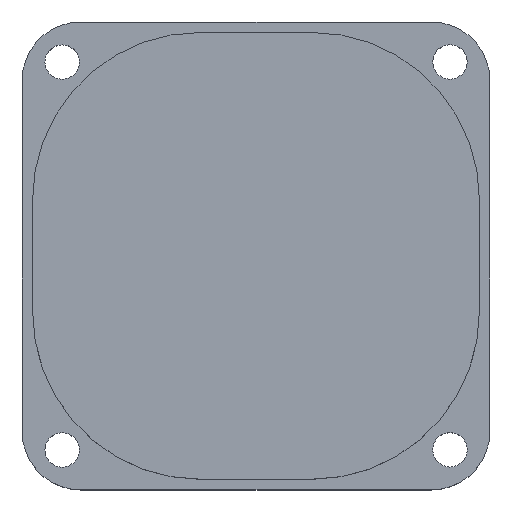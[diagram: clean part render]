
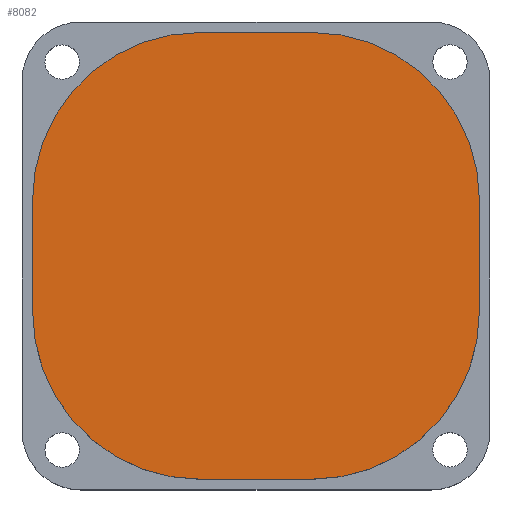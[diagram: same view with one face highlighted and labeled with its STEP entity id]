
A CAD part, top view. The second image highlights one B-rep face of the part: STEP entity #8082.
In plain terms, the highlighted planar face has unit normal (0, 0, 1).
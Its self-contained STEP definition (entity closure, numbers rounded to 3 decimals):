
#109 = DIRECTION ( 'NONE',  ( 0., 0., 1. ) ) ;
#158 = EDGE_LOOP ( 'NONE', ( #6328, #1506, #8587, #3090, #3421, #2420, #7467, #9928 ) ) ;
#259 = PLANE ( 'NONE',  #8078 ) ;
#336 = VERTEX_POINT ( 'NONE', #2108 ) ;
#345 = EDGE_CURVE ( 'NONE', #4253, #9525, #2819, .T. ) ;
#428 = DIRECTION ( 'NONE',  ( 1., 0., 0. ) ) ;
#455 = CIRCLE ( 'NONE', #7602, 18.186 ) ;
#800 = LINE ( 'NONE', #4471, #5436 ) ;
#926 = LINE ( 'NONE', #2035, #6907 ) ;
#1097 = AXIS2_PLACEMENT_3D ( 'NONE', #2015, #1155, #428 ) ;
#1155 = DIRECTION ( 'NONE',  ( 0., 0., 1. ) ) ;
#1220 = CARTESIAN_POINT ( 'NONE',  ( 22.316, 0.986, 48.057 ) ) ;
#1506 = ORIENTED_EDGE ( 'NONE', *, *, #5512, .T. ) ;
#1527 = EDGE_CURVE ( 'NONE', #4843, #336, #9398, .T. ) ;
#1579 = CIRCLE ( 'NONE', #1097, 18.186 ) ;
#1760 = CARTESIAN_POINT ( 'NONE',  ( 40.503, 31.313, 48.057 ) ) ;
#2015 = CARTESIAN_POINT ( 'NONE',  ( 10.175, 31.313, 48.057 ) ) ;
#2034 = CARTESIAN_POINT ( 'NONE',  ( -8.011, 49.5, 48.057 ) ) ;
#2035 = CARTESIAN_POINT ( 'NONE',  ( -8.011, 49.5, 48.057 ) ) ;
#2049 = DIRECTION ( 'NONE',  ( 0., 0., 1. ) ) ;
#2108 = CARTESIAN_POINT ( 'NONE',  ( 10.175, 49.5, 48.057 ) ) ;
#2420 = ORIENTED_EDGE ( 'NONE', *, *, #4279, .T. ) ;
#2819 = LINE ( 'NONE', #6938, #7473 ) ;
#2825 = AXIS2_PLACEMENT_3D ( 'NONE', #8412, #9178, #8350 ) ;
#2845 = DIRECTION ( 'NONE',  ( 0., 0., 1. ) ) ;
#2937 = DIRECTION ( 'NONE',  ( 1., 0., 0. ) ) ;
#3090 = ORIENTED_EDGE ( 'NONE', *, *, #7160, .T. ) ;
#3167 = CARTESIAN_POINT ( 'NONE',  ( 22.316, 19.172, 48.057 ) ) ;
#3421 = ORIENTED_EDGE ( 'NONE', *, *, #345, .T. ) ;
#4123 = VERTEX_POINT ( 'NONE', #10156 ) ;
#4130 = CARTESIAN_POINT ( 'NONE',  ( -8.011, 31.313, 48.057 ) ) ;
#4253 = VERTEX_POINT ( 'NONE', #6237 ) ;
#4279 = EDGE_CURVE ( 'NONE', #9525, #4843, #455, .T. ) ;
#4427 = DIRECTION ( 'NONE',  ( 1., 0., 0. ) ) ;
#4471 = CARTESIAN_POINT ( 'NONE',  ( -8.011, 0.986, 48.057 ) ) ;
#4668 = CIRCLE ( 'NONE', #9612, 18.186 ) ;
#4670 = EDGE_CURVE ( 'NONE', #4123, #5926, #800, .T. ) ;
#4843 = VERTEX_POINT ( 'NONE', #5927 ) ;
#4942 = DIRECTION ( 'NONE',  ( 0., 1., 0. ) ) ;
#5109 = EDGE_CURVE ( 'NONE', #8676, #7977, #926, .T. ) ;
#5436 = VECTOR ( 'NONE', #5991, 1000. ) ;
#5512 = EDGE_CURVE ( 'NONE', #7977, #4123, #7901, .T. ) ;
#5532 = DIRECTION ( 'NONE',  ( 1., 0., 0. ) ) ;
#5926 = VERTEX_POINT ( 'NONE', #1220 ) ;
#5927 = CARTESIAN_POINT ( 'NONE',  ( 22.316, 49.5, 48.057 ) ) ;
#5991 = DIRECTION ( 'NONE',  ( 1., 0., 0. ) ) ;
#6237 = CARTESIAN_POINT ( 'NONE',  ( 40.503, 19.172, 48.057 ) ) ;
#6328 = ORIENTED_EDGE ( 'NONE', *, *, #5109, .T. ) ;
#6443 = CARTESIAN_POINT ( 'NONE',  ( -8.011, 19.172, 48.057 ) ) ;
#6746 = CARTESIAN_POINT ( 'NONE',  ( 22.316, 31.313, 48.057 ) ) ;
#6907 = VECTOR ( 'NONE', #7513, 1000. ) ;
#6938 = CARTESIAN_POINT ( 'NONE',  ( 40.503, 49.5, 48.057 ) ) ;
#7160 = EDGE_CURVE ( 'NONE', #5926, #4253, #4668, .T. ) ;
#7467 = ORIENTED_EDGE ( 'NONE', *, *, #1527, .T. ) ;
#7473 = VECTOR ( 'NONE', #4942, 1000. ) ;
#7513 = DIRECTION ( 'NONE',  ( 0., -1., 0. ) ) ;
#7602 = AXIS2_PLACEMENT_3D ( 'NONE', #6746, #2049, #2937 ) ;
#7901 = CIRCLE ( 'NONE', #2825, 18.186 ) ;
#7951 = FACE_OUTER_BOUND ( 'NONE', #158, .T. ) ;
#7977 = VERTEX_POINT ( 'NONE', #6443 ) ;
#8078 = AXIS2_PLACEMENT_3D ( 'NONE', #9117, #2845, #4427 ) ;
#8082 = ADVANCED_FACE ( 'NONE', ( #7951 ), #259, .T. ) ;
#8350 = DIRECTION ( 'NONE',  ( 1., 0., 0. ) ) ;
#8412 = CARTESIAN_POINT ( 'NONE',  ( 10.175, 19.172, 48.057 ) ) ;
#8587 = ORIENTED_EDGE ( 'NONE', *, *, #4670, .T. ) ;
#8676 = VERTEX_POINT ( 'NONE', #4130 ) ;
#9031 = DIRECTION ( 'NONE',  ( -1., 0., 0. ) ) ;
#9117 = CARTESIAN_POINT ( 'NONE',  ( -9.154, -0.157, 48.057 ) ) ;
#9178 = DIRECTION ( 'NONE',  ( 0., 0., 1. ) ) ;
#9398 = LINE ( 'NONE', #2034, #10021 ) ;
#9475 = EDGE_CURVE ( 'NONE', #336, #8676, #1579, .T. ) ;
#9525 = VERTEX_POINT ( 'NONE', #1760 ) ;
#9612 = AXIS2_PLACEMENT_3D ( 'NONE', #3167, #109, #5532 ) ;
#9928 = ORIENTED_EDGE ( 'NONE', *, *, #9475, .T. ) ;
#10021 = VECTOR ( 'NONE', #9031, 1000. ) ;
#10156 = CARTESIAN_POINT ( 'NONE',  ( 10.175, 0.986, 48.057 ) ) ;
